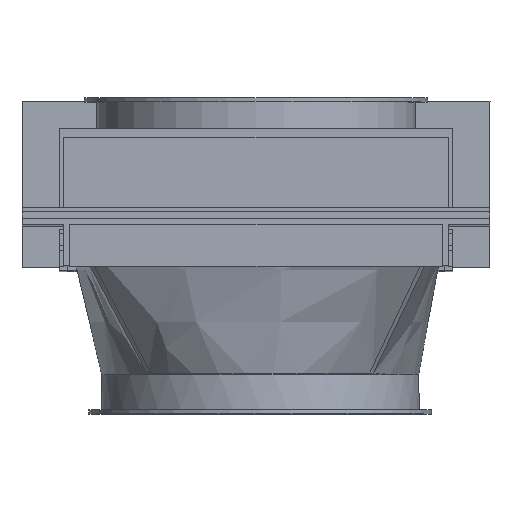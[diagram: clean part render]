
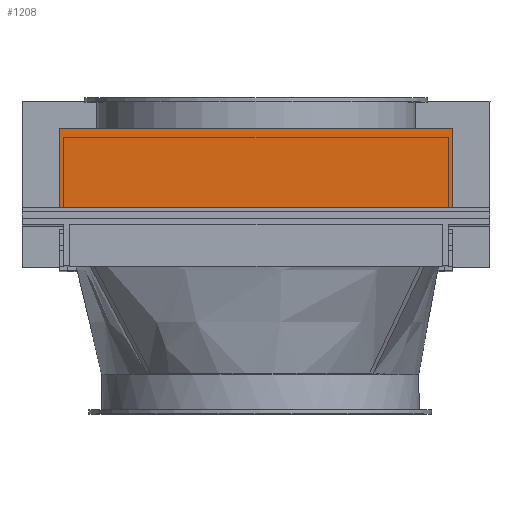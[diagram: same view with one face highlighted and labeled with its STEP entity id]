
A CAD part, top view. The second image highlights one B-rep face of the part: STEP entity #1208.
In plain terms, the highlighted planar face has unit normal (0, 0, 1) as drawn and (-1, 0, 0) by its records, which use the part's own axes.
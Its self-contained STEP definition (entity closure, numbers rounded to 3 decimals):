
#1169=CARTESIAN_POINT('',(-277.0,18.,2.0));
#1170=DIRECTION('',(-1.0,0.0,0.0));
#1171=DIRECTION('',(0.0,0.0,1.0));
#1172=AXIS2_PLACEMENT_3D('',#1169,#1170,#1171);
#1173=PLANE('',#1172);
#1174=CARTESIAN_POINT('',(-277.0,18.,40.0));
#1175=VERTEX_POINT('',#1174);
#1176=CARTESIAN_POINT('',(-277.0,207.0,40.0));
#1177=VERTEX_POINT('',#1176);
#1178=CARTESIAN_POINT('',(-277.0,18.,40.0));
#1179=DIRECTION('',(0.0,1.0,0.0));
#1180=VECTOR('',#1179,189.);
#1181=LINE('',#1178,#1180);
#1182=EDGE_CURVE('',#1175,#1177,#1181,.T.);
#1183=ORIENTED_EDGE('',*,*,#1182,.T.);
#1184=CARTESIAN_POINT('',(-277.0,207.0,2.0));
#1185=VERTEX_POINT('',#1184);
#1186=CARTESIAN_POINT('',(-277.0,207.0,2.0));
#1187=DIRECTION('',(0.0,0.0,1.0));
#1188=VECTOR('',#1187,38.0);
#1189=LINE('',#1186,#1188);
#1190=EDGE_CURVE('',#1185,#1177,#1189,.T.);
#1191=ORIENTED_EDGE('',*,*,#1190,.F.);
#1192=CARTESIAN_POINT('',(-277.0,18.,2.0));
#1193=VERTEX_POINT('',#1192);
#1194=CARTESIAN_POINT('',(-277.0,18.,2.0));
#1195=DIRECTION('',(0.0,1.0,0.0));
#1196=VECTOR('',#1195,189.);
#1197=LINE('',#1194,#1196);
#1198=EDGE_CURVE('',#1193,#1185,#1197,.T.);
#1199=ORIENTED_EDGE('',*,*,#1198,.F.);
#1200=CARTESIAN_POINT('',(-277.0,18.,2.0));
#1201=DIRECTION('',(0.0,0.0,1.0));
#1202=VECTOR('',#1201,38.0);
#1203=LINE('',#1200,#1202);
#1204=EDGE_CURVE('',#1193,#1175,#1203,.T.);
#1205=ORIENTED_EDGE('',*,*,#1204,.T.);
#1206=EDGE_LOOP('',(#1183,#1191,#1199,#1205));
#1207=FACE_OUTER_BOUND('',#1206,.T.);
#1208=ADVANCED_FACE('',(#1207),#1173,.T.);
